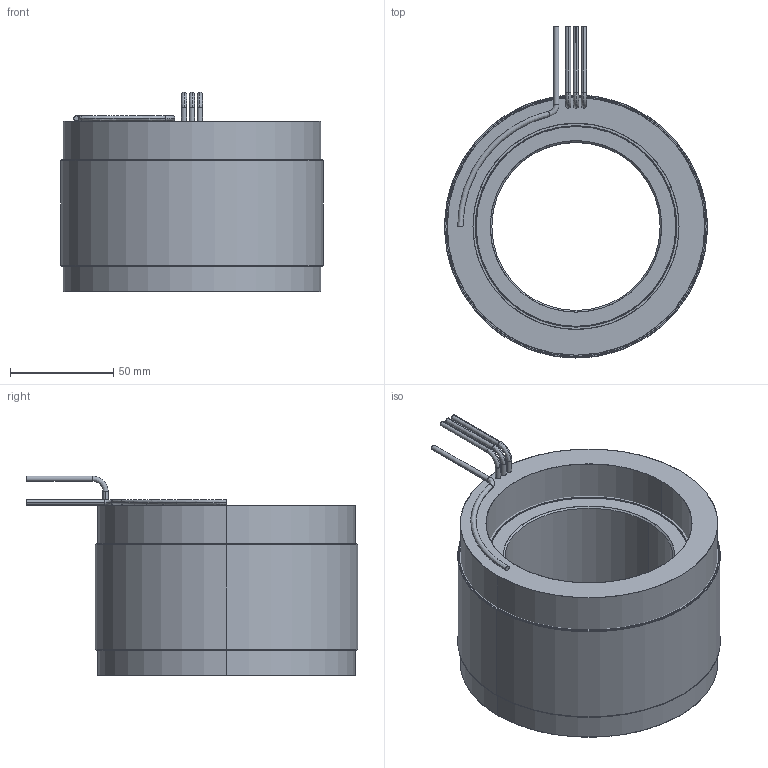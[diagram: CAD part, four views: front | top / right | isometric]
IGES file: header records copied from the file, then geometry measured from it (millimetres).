
Start section: SolidWorks IGES file using analytic representation for surfaces
Global section: file name: \\fs01.aveox.local\user documents\eng\My Documents\6100398-XX STATOR AND ROTOR SET, UT-5000-24P4, SENSORLESS TABULATED\6100398-04.IGS; native system: SolidWorks 2016; preprocessor: SolidWorks 2016; author: eng; date: 201226.190707; units: inch
Bounding box: 127 x 160.29 x 96.52 mm (x, y, z)
Surface area: 188863.5 mm2 (no closed solid volume)
Topology: 0 solids, 0 shells, 75 faces, 2236 edges, 2236 vertices
Faces by surface type: revolution 46, bspline 29
